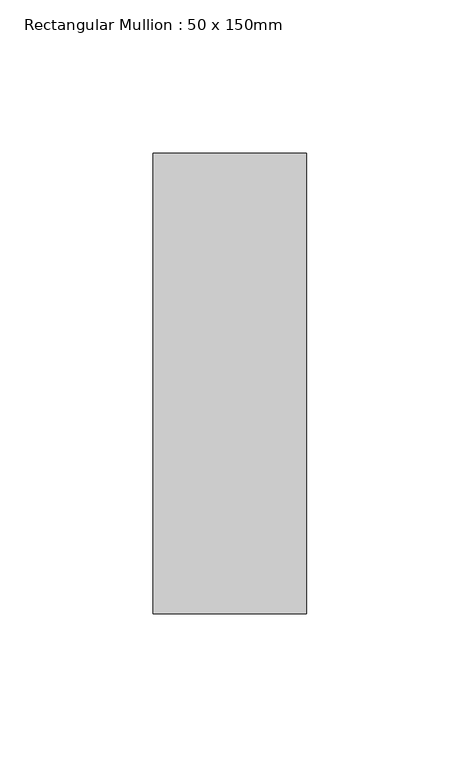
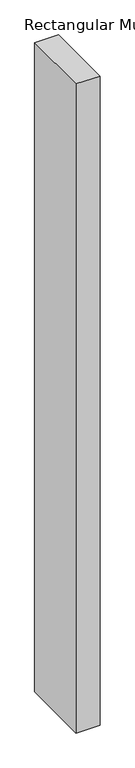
"""IFC4 building model written with IfcOpenShell, lengths in millimetres: member geometry, Rectangular Mullion : 50 x 150mm."""

import ifcopenshell
import ifcopenshell.guid

model = None  # the IFC model being written
_history = None  # IfcOwnerHistory: only IFC2X3 demands one
_inside = {}  # id of a spatial element -> (the spatial element, [elements in it])
_under = {}  # id of a project, library or spatial element -> (it, [spatial elements below it])
_declared = {}  # id of a project -> (the project, [libraries it declares])
_typed = {}  # id of a type object -> (the type object, [elements of that type])
_made_of = {}  # id of a material, layer set ... -> (it, [elements and type objects made of it])


def new_model(schema):
    """Start an empty IFC model of exactly this schema.

    Asked for "IFC4X3", IfcOpenShell would pick the latest addendum, in which some entities
    have other attributes; the version numbers below select the first issue.
    IFC2X3 requires an IfcOwnerHistory on every rooted entity: one is made here for all.
    """
    global model, _history
    if schema == "IFC4X3":
        model = ifcopenshell.file(schema_version=(4, 3, 0, 0))
    else:
        model = ifcopenshell.file(schema=schema)
    _inside.clear()
    _under.clear()
    _declared.clear()
    _typed.clear()
    _made_of.clear()
    _history = None
    if model.schema == "IFC2X3":
        org = make("IfcOrganization", Name="unknown")
        user = make(
            "IfcPersonAndOrganization",
            ThePerson=make("IfcPerson", FamilyName="unknown"),
            TheOrganization=org,
        )
        app = make(
            "IfcApplication",
            ApplicationDeveloper=org,
            Version="unknown",
            ApplicationFullName="unknown",
            ApplicationIdentifier="unknown",
        )
        _history = make(
            "IfcOwnerHistory",
            OwningUser=user,
            OwningApplication=app,
            ChangeAction="ADDED",
            CreationDate=0,
        )
    return model


def make(cls, **values):
    """One entity of the class cls with the attributes given. An attribute that is None is left unset."""
    return model.create_entity(
        cls, **{name: value for name, value in values.items() if value is not None}
    )


def rooted(cls, **values):
    """An entity with a GlobalId (a new one), such as an element, a storey or a relation."""
    return make(cls, GlobalId=ifcopenshell.guid.new(), OwnerHistory=_history, **values)


def si_unit(unit_type, name, prefix=None):
    """IfcSIUnit, for example si_unit("LENGTHUNIT", "METRE", prefix="MILLI")."""
    return make("IfcSIUnit", UnitType=unit_type, Prefix=prefix, Name=name)


def assignment(units):
    """IfcUnitAssignment: the units of a project."""
    return None if units is None else make("IfcUnitAssignment", Units=units)


def point(xyz):
    """IfcCartesianPoint."""
    return None if xyz is None else make("IfcCartesianPoint", Coordinates=xyz)


def direction(xyz):
    """IfcDirection."""
    return None if xyz is None else make("IfcDirection", DirectionRatios=xyz)


def frame(location, z_axis=None, x_axis=None):
    """IfcAxis2Placement3D, a coordinate frame: its origin and axes. An axis left out is left unset."""
    return make(
        "IfcAxis2Placement3D",
        Location=point(location),
        Axis=direction(z_axis),
        RefDirection=direction(x_axis),
    )


def origin():
    """The frame at (0, 0, 0) with its axes left unset."""
    return frame((0.0, 0.0, 0.0))


def place(relative_to, where):
    """IfcLocalPlacement: puts the frame where relative to a parent placement (None: the world)."""
    return make(
        "IfcLocalPlacement", PlacementRelTo=relative_to, RelativePlacement=where
    )


def context(
    kind, dimensions, precision=None, world=None, true_north=None, identifier=None
):
    """IfcGeometricRepresentationContext, for example the 3D "Model" context."""
    return make(
        "IfcGeometricRepresentationContext",
        ContextIdentifier=identifier,
        ContextType=kind,
        CoordinateSpaceDimension=dimensions,
        Precision=precision,
        WorldCoordinateSystem=world,
        TrueNorth=true_north,
    )


def project(units=None, contexts=None):
    """IfcProject with its units and contexts."""
    return rooted(
        "IfcProject",
        Name="project",
        RepresentationContexts=contexts,
        UnitsInContext=assignment(units),
    )


def spatial(cls, under=None, at=None, **own):
    """A site, building, storey or space (cls), placed at a placement, below another one or the project."""
    s = rooted(cls, ObjectPlacement=at, **own)
    if under is not None:
        _under.setdefault(under.id(), (under, []))[1].append(s)
    return s


def polyline(points):
    """IfcPolyline through the points."""
    return make("IfcPolyline", Points=[point(p) for p in points])


def outline(outer, holes=None, kind="AREA"):
    """IfcArbitraryClosedProfileDef: a profile drawn as a closed curve; with holes, ...WithVoids."""
    if holes is None:
        return make("IfcArbitraryClosedProfileDef", ProfileType=kind, OuterCurve=outer)
    return make(
        "IfcArbitraryProfileDefWithVoids",
        ProfileType=kind,
        OuterCurve=outer,
        InnerCurves=holes,
    )


def extrude(swept, where, along, depth):
    """IfcExtrudedAreaSolid: the profile swept, set in the frame where, extruded along a direction by depth."""
    return make(
        "IfcExtrudedAreaSolid",
        SweptArea=swept,
        Position=where,
        ExtrudedDirection=direction(along),
        Depth=depth,
    )


def shape(context_of_items, identifier, shape_type, items):
    """IfcShapeRepresentation: the items that make up one representation, for example the "Body"."""
    return make(
        "IfcShapeRepresentation",
        ContextOfItems=context_of_items,
        RepresentationIdentifier=identifier,
        RepresentationType=shape_type,
        Items=items,
    )


def source(mapping_origin, context_of_items, identifier, shape_type, items):
    """IfcRepresentationMap: a shape defined once, which mapped items show again and again."""
    return make(
        "IfcRepresentationMap",
        MappingOrigin=mapping_origin,
        MappedRepresentation=shape(context_of_items, identifier, shape_type, items),
    )


def transform(
    local_origin,
    x_axis=None,
    y_axis=None,
    z_axis=None,
    scale=None,
    scale2=None,
    scale3=None,
    uniform=True,
):
    """IfcCartesianTransformationOperator3D, or its non-uniform kind. x_axis, y_axis, z_axis: its Axis1, 2, 3."""
    if uniform:
        return make(
            "IfcCartesianTransformationOperator3D",
            Axis1=direction(x_axis),
            Axis2=direction(y_axis),
            LocalOrigin=point(local_origin),
            Scale=scale,
            Axis3=direction(z_axis),
        )
    return make(
        "IfcCartesianTransformationOperator3DnonUniform",
        Axis1=direction(x_axis),
        Axis2=direction(y_axis),
        LocalOrigin=point(local_origin),
        Scale=scale,
        Axis3=direction(z_axis),
        Scale2=scale2,
        Scale3=scale3,
    )


def mapped(mapping_source, mapping_target):
    """IfcMappedItem: shows the shape of a source again, moved by a transform."""
    return make(
        "IfcMappedItem", MappingSource=mapping_source, MappingTarget=mapping_target
    )


def made_of(thing, what):
    """Note that an element or type object is made of a material, layer set ...; save() writes the relation."""
    if what is not None:
        _made_of.setdefault(what.id(), (what, []))[1].append(thing)
    return thing


def element(
    cls,
    number,
    at=None,
    inside=None,
    cuts=None,
    type_object=None,
    material=None,
    context=None,
    identifier="Body",
    shape_type=None,
    held_by="IfcProductDefinitionShape",
    body=None,
    shapes=None,
    **own,
):
    """One element of the class cls, such as IfcWall. Its Tag is "e" and its number.

    at: its placement. inside: the storey or other place that contains it. cuts: it is an
    opening in that element (IfcRelVoidsElement). A single representation is given by context,
    identifier, shape_type and body (its items); several are given by shapes. held_by: the class
    of the entity that holds the representations. save() writes the other relations.
    """
    e = rooted(cls, Tag="e%d" % number, ObjectPlacement=at, **own)
    if body is not None:
        shapes = [shape(context, identifier, shape_type, body)]
    if shapes is not None:
        e.Representation = make(held_by, Representations=shapes)
    if inside is not None:
        _inside.setdefault(inside.id(), (inside, []))[1].append(e)
    if cuts is not None:
        rooted(
            "IfcRelVoidsElement", RelatingBuildingElement=cuts, RelatedOpeningElement=e
        )
    if type_object is not None:
        _typed.setdefault(type_object.id(), (type_object, []))[1].append(e)
    return made_of(e, material)


def aggregate(whole, parts):
    """IfcRelAggregates: a whole, such as a stair, and the parts it consists of."""
    return rooted("IfcRelAggregates", RelatingObject=whole, RelatedObjects=parts)


def save(model, path):
    """Write the relations noted so far, then the file.

    IfcRelAggregates (storeys below a building ...), IfcRelContainedInSpatialStructure (elements
    in a storey), IfcRelDefinesByType, IfcRelAssociatesMaterial and IfcRelDeclares: one each for
    every whole, place, type object, material and project.
    """
    for whole, parts in _under.values():
        aggregate(whole, parts)
    for where, things in _inside.values():
        rooted(
            "IfcRelContainedInSpatialStructure",
            RelatedElements=things,
            RelatingStructure=where,
        )
    for kind, things in _typed.values():
        rooted("IfcRelDefinesByType", RelatedObjects=things, RelatingType=kind)
    for what, things in _made_of.values():
        rooted("IfcRelAssociatesMaterial", RelatedObjects=things, RelatingMaterial=what)
    for by, libraries in _declared.values():
        rooted("IfcRelDeclares", RelatingContext=by, RelatedDefinitions=libraries)
    model.write(path)


def rectangular_mullion_50_x_150mm_eb39e501(model_context):
    return source(origin(), model_context, "Body", "SweptSolid", [
        extrude(outline(polyline([(25.0, 75.0), (25.0, -75.0), (-25.0, -75.0), (-25.0, 75.0), (25.0, 75.0)])), frame((0.0, 0.0, -1436.1111109), z_axis=(0.0, 0.0, 1.0), x_axis=(1.0, 0.0, 0.0)), (0.0, 0.0, 1.0), 1436.1111109),
    ])


if __name__ == "__main__":
    model = new_model("IFC4")
    model_context = context("Model", 3, world=origin())
    ifc_project = project(units=[si_unit("LENGTHUNIT", "METRE", prefix="MILLI")], contexts=[model_context])
    site = spatial("IfcSite", under=ifc_project)
    building = spatial("IfcBuilding", under=site)
    placement = place(None, origin())
    rectangular_mullion_50_x_150mm_shape = rectangular_mullion_50_x_150mm_eb39e501(model_context)
    element("IfcMember", 1, ObjectType="Rectangular Mullion : 50 x 150mm", at=placement, inside=building, context=model_context, shape_type="MappedRepresentation", body=[
        mapped(rectangular_mullion_50_x_150mm_shape, transform((0.0, 0.0, 0.0), x_axis=(1.0, 0.0, 0.0), y_axis=(0.0, 1.0, 0.0), z_axis=(0.0, 0.0, 1.0))),
    ])
    save(model, "model.ifc")
